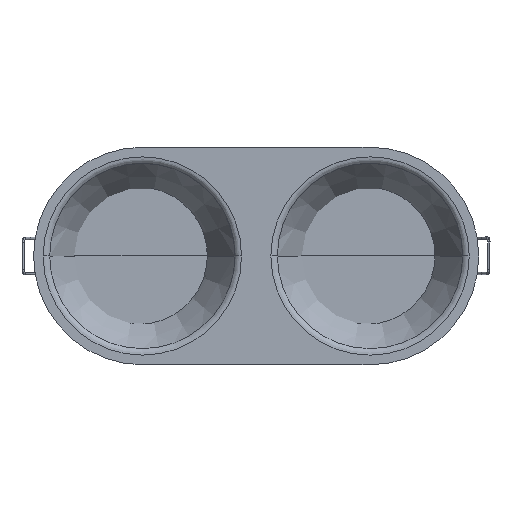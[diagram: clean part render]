
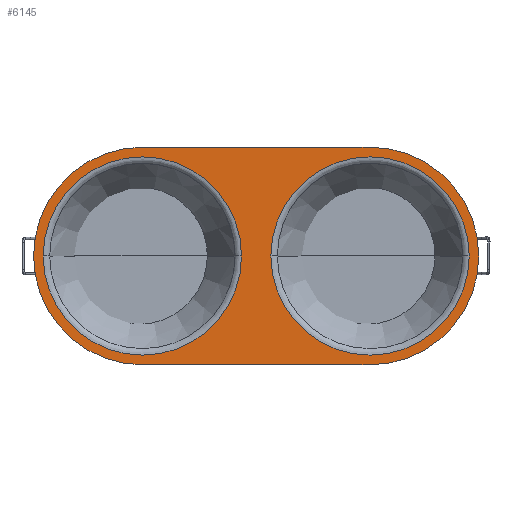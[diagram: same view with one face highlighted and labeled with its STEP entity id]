
A CAD part, top view. The second image highlights one B-rep face of the part: STEP entity #6145.
In plain terms, the highlighted planar face has unit normal (0, 0, 1).
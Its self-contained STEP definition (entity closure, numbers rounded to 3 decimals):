
#153=FACE_BOUND('',#956,.T.);
#154=FACE_BOUND('',#957,.T.);
#229=PLANE('',#7095);
#697=FACE_OUTER_BOUND('',#955,.T.);
#955=EDGE_LOOP('',(#5660,#5661,#5662,#5663));
#956=EDGE_LOOP('',(#5664));
#957=EDGE_LOOP('',(#5665));
#1699=LINE('',#14433,#2178);
#1700=LINE('',#14436,#2179);
#2178=VECTOR('',#8560,90.);
#2179=VECTOR('',#8563,90.);
#2491=CIRCLE('',#7096,43.);
#2492=CIRCLE('',#7097,43.);
#2493=CIRCLE('',#7098,39.199);
#2494=CIRCLE('',#7099,39.199);
#3440=VERTEX_POINT('',#14429);
#3441=VERTEX_POINT('',#14430);
#3442=VERTEX_POINT('',#14432);
#3443=VERTEX_POINT('',#14434);
#3444=VERTEX_POINT('',#14437);
#3445=VERTEX_POINT('',#14439);
#4544=EDGE_CURVE('',#3440,#3441,#2491,.T.);
#4545=EDGE_CURVE('',#3441,#3442,#1699,.T.);
#4546=EDGE_CURVE('',#3442,#3443,#2492,.T.);
#4547=EDGE_CURVE('',#3443,#3440,#1700,.T.);
#4548=EDGE_CURVE('',#3444,#3444,#2493,.T.);
#4549=EDGE_CURVE('',#3445,#3445,#2494,.T.);
#5660=ORIENTED_EDGE('',*,*,#4544,.T.);
#5661=ORIENTED_EDGE('',*,*,#4545,.T.);
#5662=ORIENTED_EDGE('',*,*,#4546,.T.);
#5663=ORIENTED_EDGE('',*,*,#4547,.T.);
#5664=ORIENTED_EDGE('',*,*,#4548,.T.);
#5665=ORIENTED_EDGE('',*,*,#4549,.T.);
#6145=ADVANCED_FACE('',(#697,#153,#154),#229,.T.);
#7095=AXIS2_PLACEMENT_3D('',#14428,#8556,#8557);
#7096=AXIS2_PLACEMENT_3D('',#14431,#8558,#8559);
#7097=AXIS2_PLACEMENT_3D('',#14435,#8561,#8562);
#7098=AXIS2_PLACEMENT_3D('',#14438,#8564,#8565);
#7099=AXIS2_PLACEMENT_3D('',#14440,#8566,#8567);
#8556=DIRECTION('center_axis',(0.,0.,1.));
#8557=DIRECTION('ref_axis',(1.,0.,0.));
#8558=DIRECTION('center_axis',(0.,0.,1.));
#8559=DIRECTION('ref_axis',(1.,0.,0.));
#8560=DIRECTION('',(-1.,0.,0.));
#8561=DIRECTION('center_axis',(0.,0.,1.));
#8562=DIRECTION('ref_axis',(1.,0.,0.));
#8563=DIRECTION('',(1.,0.,0.));
#8564=DIRECTION('center_axis',(0.,0.,
-1.));
#8565=DIRECTION('ref_axis',(1.,0.,0.));
#8566=DIRECTION('center_axis',(0.,0.,
-1.));
#8567=DIRECTION('ref_axis',(1.,0.,0.));
#14428=CARTESIAN_POINT('Origin',(-45.,-43.,34.));
#14429=CARTESIAN_POINT('',(0.,-43.,34.));
#14430=CARTESIAN_POINT('',(0.,43.,34.));
#14431=CARTESIAN_POINT('Origin',(0.,0.,34.));
#14432=CARTESIAN_POINT('',(-90.,43.,34.));
#14433=CARTESIAN_POINT('',(0.,43.,34.));
#14434=CARTESIAN_POINT('',(-90.,-43.,34.));
#14435=CARTESIAN_POINT('Origin',(-90.,0.,34.));
#14436=CARTESIAN_POINT('',(-90.,-43.,34.));
#14437=CARTESIAN_POINT('',(-129.199,0.,34.));
#14438=CARTESIAN_POINT('Origin',(-90.,0.,34.));
#14439=CARTESIAN_POINT('',(-39.199,0.,34.));
#14440=CARTESIAN_POINT('Origin',(0.,0.,
34.));
